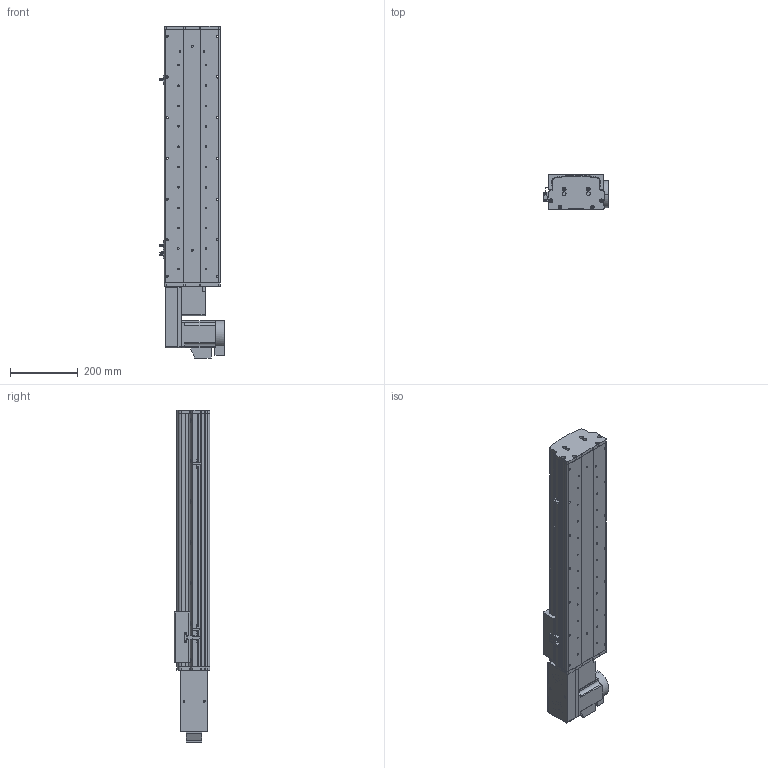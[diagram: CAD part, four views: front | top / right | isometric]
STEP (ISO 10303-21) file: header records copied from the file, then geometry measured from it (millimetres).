
FILE_DESCRIPTION (( 'STEP AP214' ), '1' );
FILE_NAME ('KSD165B-S500-MLB-CM.STEP', '2017-10-16T05:53:51', ( '微软用户' ), ( '微软中国' ), 'SwSTEP 2.0', 'SolidWorks 2014', '' );
FILE_SCHEMA (( 'AUTOMOTIVE_DESIGN' ));
Length unit declared in the file: millimetre
Products named in the file (18): KSD165B-S500-MLB-CM; 拸秶雄ん750W侜督萇儂; 165宽马达安装板同步带左-改; 肣翐M4X35樓6; HTPA26S5M250-A-H8 750W萇儂蚚; HTPA26S5M250-A-H8 400W萇儂蚚 ; 130宽模组马达安装板连板左右折同步带; 130宽模组保护罩上下左右折-同步带; KSD165模组-同步带防尘盖1-500行程-最新版; U倰嫖萇假蚾璃; U倰嫖萇EEㄜSX672; 覜茼え68遵圉猾敕; KSD165模组-同步带-防撞垫2; KSD165模组同步带-防撞垫1; KSD165耀郪-ヶ傷啣1-肮祭湍; KSD165模组-后端板1-同步带; KSD165模组-同步带滑动座-最新版; KSD165模组同步带底板-500行程-最新
Assembly tree (22 placements, depth 2):
  KSD165B-S500-MLB-CM
    KSD165模组同步带底板-500行程-最新
    KSD165模组-同步带滑动座-最新版
    KSD165模组-后端板1-同步带
    KSD165耀郪-ヶ傷啣1-肮祭湍
    KSD165模组同步带-防撞垫1
    KSD165模组-同步带-防撞垫2
    覜茼え68遵圉猾敕
    U倰嫖萇EEㄜSX672  x3
    U倰嫖萇假蚾璃  x3
    KSD165模组-同步带防尘盖1-500行程-最新版
    130宽模组保护罩上下左右折-同步带
    130宽模组马达安装板连板左右折同步带
    HTPA26S5M250-A-H8 400W萇儂蚚 
    HTPA26S5M250-A-H8 750W萇儂蚚
    肣翐M4X35樓6  x2
    165宽马达安装板同步带左-改
    拸秶雄ん750W侜督萇儂
Bounding box: 191.2 x 104 x 978 mm (x, y, z)
Volume: 5661660.8 mm3; surface area: 1313147.9 mm2
Topology: 23 solids, 24 shells, 1933 faces, 5426 edges, 3538 vertices
Faces by surface type: cylinder 1217, plane 600, cone 116
Entity records: 61650 total; most frequent: CARTESIAN_POINT 12616, DIRECTION 10176, ORIENTED_EDGE 9440, EDGE_CURVE 4720, AXIS2_PLACEMENT_3D 3979, VERTEX_POINT 3109, CIRCLE 2256, LINE 2218
